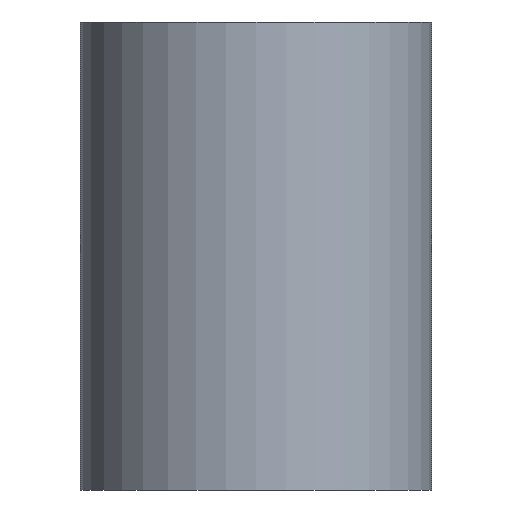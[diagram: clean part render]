
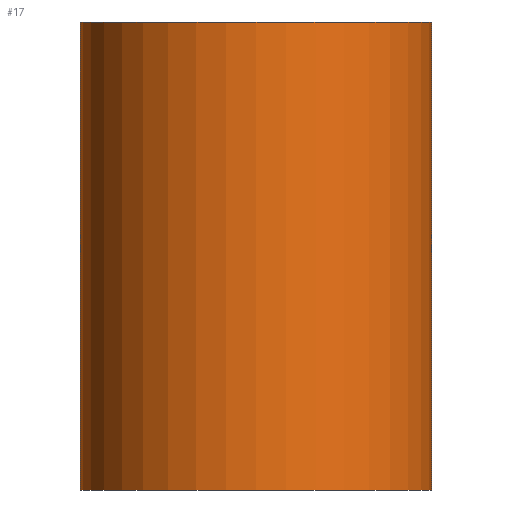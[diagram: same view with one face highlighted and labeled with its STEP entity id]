
A CAD part, front view. The second image highlights one B-rep face of the part: STEP entity #17.
In plain terms, the highlighted cylindrical face has radius 6 mm (diameter 12 mm), a full revolution.
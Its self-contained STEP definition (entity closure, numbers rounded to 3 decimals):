
#17 = ADVANCED_FACE('',(#18),#32,.T.);
#18 = FACE_BOUND('',#19,.F.);
#19 = EDGE_LOOP('',(#20,#50,#77,#78));
#20 = ORIENTED_EDGE('',*,*,#21,.T.);
#21 = EDGE_CURVE('',#22,#24,#26,.T.);
#22 = VERTEX_POINT('',#23);
#23 = CARTESIAN_POINT('',(12.,6.,0.));
#24 = VERTEX_POINT('',#25);
#25 = CARTESIAN_POINT('',(12.,6.,16.));
#26 = SEAM_CURVE('',#27,(#31,#43),.PCURVE_S1.);
#27 = LINE('',#28,#29);
#28 = CARTESIAN_POINT('',(12.,6.,0.));
#29 = VECTOR('',#30,1.);
#30 = DIRECTION('',(0.,0.,1.));
#31 = PCURVE('',#32,#37);
#32 = CYLINDRICAL_SURFACE('',#33,6.);
#33 = AXIS2_PLACEMENT_3D('',#34,#35,#36);
#34 = CARTESIAN_POINT('',(6.,6.,0.));
#35 = DIRECTION('',(-0.,-0.,-1.));
#36 = DIRECTION('',(1.,0.,0.));
#37 = DEFINITIONAL_REPRESENTATION('',(#38),#42);
#38 = LINE('',#39,#40);
#39 = CARTESIAN_POINT('',(-0.,0.));
#40 = VECTOR('',#41,1.);
#41 = DIRECTION('',(-0.,-1.));
#42 = ( GEOMETRIC_REPRESENTATION_CONTEXT(2) 
PARAMETRIC_REPRESENTATION_CONTEXT() REPRESENTATION_CONTEXT('2D SPACE',''
  ) );
#43 = PCURVE('',#32,#44);
#44 = DEFINITIONAL_REPRESENTATION('',(#45),#49);
#45 = LINE('',#46,#47);
#46 = CARTESIAN_POINT('',(-6.283,0.));
#47 = VECTOR('',#48,1.);
#48 = DIRECTION('',(-0.,-1.));
#49 = ( GEOMETRIC_REPRESENTATION_CONTEXT(2) 
PARAMETRIC_REPRESENTATION_CONTEXT() REPRESENTATION_CONTEXT('2D SPACE',''
  ) );
#50 = ORIENTED_EDGE('',*,*,#51,.T.);
#51 = EDGE_CURVE('',#24,#24,#52,.T.);
#52 = SURFACE_CURVE('',#53,(#58,#65),.PCURVE_S1.);
#53 = CIRCLE('',#54,6.);
#54 = AXIS2_PLACEMENT_3D('',#55,#56,#57);
#55 = CARTESIAN_POINT('',(6.,6.,16.));
#56 = DIRECTION('',(0.,0.,1.));
#57 = DIRECTION('',(1.,0.,0.));
#58 = PCURVE('',#32,#59);
#59 = DEFINITIONAL_REPRESENTATION('',(#60),#64);
#60 = LINE('',#61,#62);
#61 = CARTESIAN_POINT('',(-0.,-16.));
#62 = VECTOR('',#63,1.);
#63 = DIRECTION('',(-1.,0.));
#64 = ( GEOMETRIC_REPRESENTATION_CONTEXT(2) 
PARAMETRIC_REPRESENTATION_CONTEXT() REPRESENTATION_CONTEXT('2D SPACE',''
  ) );
#65 = PCURVE('',#66,#71);
#66 = PLANE('',#67);
#67 = AXIS2_PLACEMENT_3D('',#68,#69,#70);
#68 = CARTESIAN_POINT('',(6.,6.,16.));
#69 = DIRECTION('',(0.,0.,1.));
#70 = DIRECTION('',(1.,0.,-0.));
#71 = DEFINITIONAL_REPRESENTATION('',(#72),#76);
#72 = CIRCLE('',#73,6.);
#73 = AXIS2_PLACEMENT_2D('',#74,#75);
#74 = CARTESIAN_POINT('',(0.,0.));
#75 = DIRECTION('',(1.,0.));
#76 = ( GEOMETRIC_REPRESENTATION_CONTEXT(2) 
PARAMETRIC_REPRESENTATION_CONTEXT() REPRESENTATION_CONTEXT('2D SPACE',''
  ) );
#77 = ORIENTED_EDGE('',*,*,#21,.F.);
#78 = ORIENTED_EDGE('',*,*,#79,.F.);
#79 = EDGE_CURVE('',#22,#22,#80,.T.);
#80 = SURFACE_CURVE('',#81,(#86,#93),.PCURVE_S1.);
#81 = CIRCLE('',#82,6.);
#82 = AXIS2_PLACEMENT_3D('',#83,#84,#85);
#83 = CARTESIAN_POINT('',(6.,6.,0.));
#84 = DIRECTION('',(0.,0.,1.));
#85 = DIRECTION('',(1.,0.,0.));
#86 = PCURVE('',#32,#87);
#87 = DEFINITIONAL_REPRESENTATION('',(#88),#92);
#88 = LINE('',#89,#90);
#89 = CARTESIAN_POINT('',(-0.,0.));
#90 = VECTOR('',#91,1.);
#91 = DIRECTION('',(-1.,0.));
#92 = ( GEOMETRIC_REPRESENTATION_CONTEXT(2) 
PARAMETRIC_REPRESENTATION_CONTEXT() REPRESENTATION_CONTEXT('2D SPACE',''
  ) );
#93 = PCURVE('',#94,#99);
#94 = PLANE('',#95);
#95 = AXIS2_PLACEMENT_3D('',#96,#97,#98);
#96 = CARTESIAN_POINT('',(6.,6.,0.));
#97 = DIRECTION('',(0.,0.,1.));
#98 = DIRECTION('',(1.,0.,-0.));
#99 = DEFINITIONAL_REPRESENTATION('',(#100),#104);
#100 = CIRCLE('',#101,6.);
#101 = AXIS2_PLACEMENT_2D('',#102,#103);
#102 = CARTESIAN_POINT('',(0.,0.));
#103 = DIRECTION('',(1.,0.));
#104 = ( GEOMETRIC_REPRESENTATION_CONTEXT(2) 
PARAMETRIC_REPRESENTATION_CONTEXT() REPRESENTATION_CONTEXT('2D SPACE',''
  ) );
